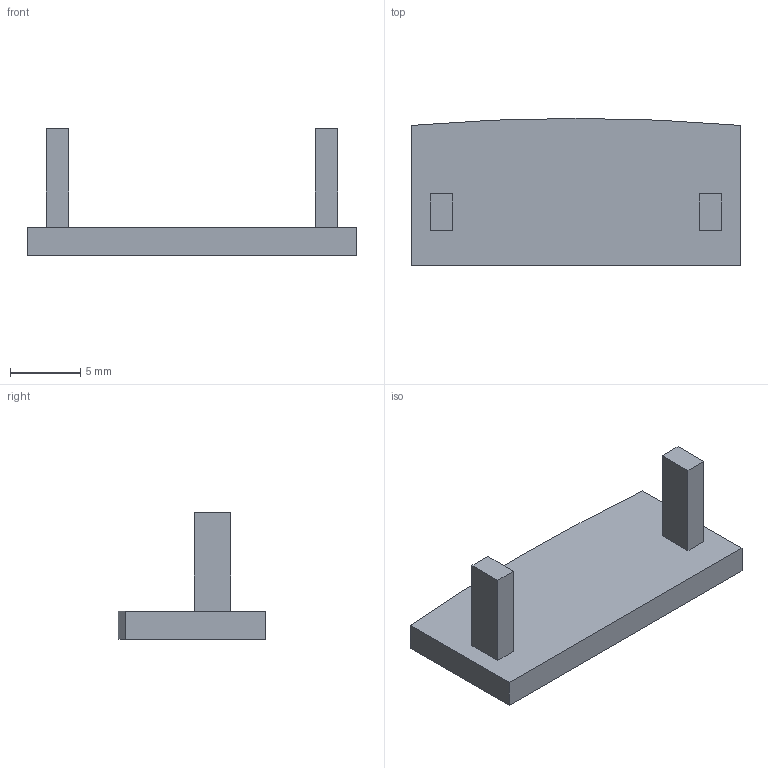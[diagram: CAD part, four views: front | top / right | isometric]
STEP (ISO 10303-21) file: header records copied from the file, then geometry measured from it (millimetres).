
FILE_DESCRIPTION (( 'STEP AP214' ), '1' );
FILE_NAME ('STRONG koncovka pro LED profil Fanto_342532_3D.STEP', '2020-06-09T10:39:58', ( '' ), ( '' ), 'SwSTEP 2.0', 'SolidWorks 2019', '' );
FILE_SCHEMA (( 'AUTOMOTIVE_DESIGN' ));
Length unit declared in the file: millimetre
Products named in the file (1): STRONG koncovka pro LED profil Fanto_342532_3D
Bounding box: 23.5 x 10.5 x 9 mm (x, y, z)
Volume: 543.9 mm3; surface area: 737.3 mm2
Topology: 1 solids, 1 shells, 16 faces, 36 edges, 24 vertices
Faces by surface type: plane 15, cylinder 1
Entity records: 476 total; most frequent: CARTESIAN_POINT 77, ORIENTED_EDGE 72, DIRECTION 72, EDGE_CURVE 36, VECTOR 34, LINE 34, VERTEX_POINT 24, AXIS2_PLACEMENT_3D 19
